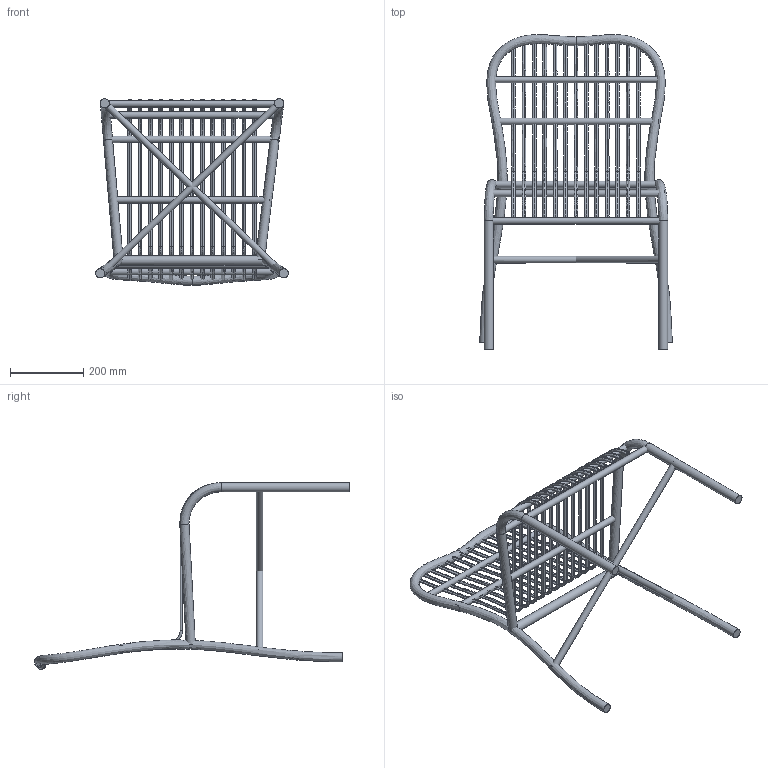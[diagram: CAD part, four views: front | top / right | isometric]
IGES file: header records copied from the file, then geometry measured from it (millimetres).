
Global section: file name: VincentSheppard_LucyDCNoArms; native system: unknown; preprocessor: unknown; author: ict@vincentsheppard.com; organization: unknown; date: 20180524.133322; units: millimetre
Bounding box: 525 x 858.56 x 508.36 mm (x, y, z)
Volume: 3619575.7 mm3; surface area: 869990.4 mm2
Topology: 26 solids, 26 shells, 188 faces, 328 edges, 192 vertices
Faces by surface type: bspline 188
